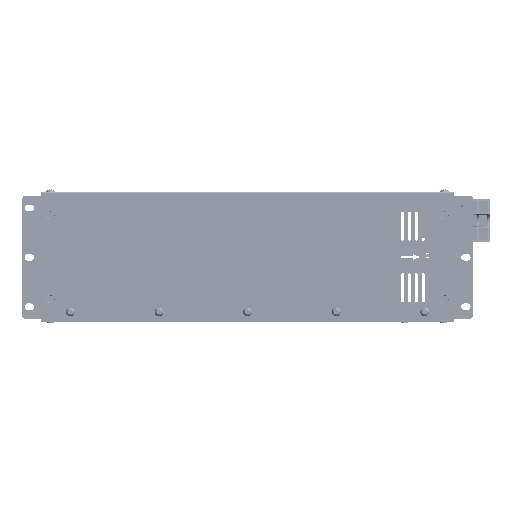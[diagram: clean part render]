
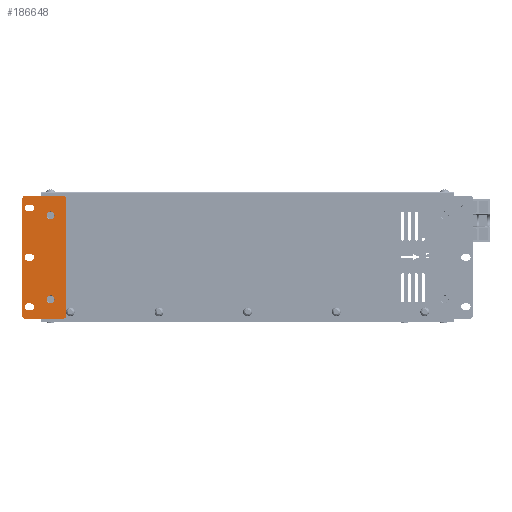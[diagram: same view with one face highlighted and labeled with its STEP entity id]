
A CAD part, top view. The second image highlights one B-rep face of the part: STEP entity #186648.
In plain terms, the highlighted planar face has unit normal (0, 0, 1).
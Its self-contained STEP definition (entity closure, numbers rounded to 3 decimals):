
#6790=FACE_BOUND('',#33034,.T.);
#6791=FACE_BOUND('',#33035,.T.);
#6792=FACE_BOUND('',#33036,.T.);
#6793=FACE_BOUND('',#33037,.T.);
#6794=FACE_BOUND('',#33038,.T.);
#12356=PLANE('',#200391);
#22141=FACE_OUTER_BOUND('',#33033,.T.);
#33033=EDGE_LOOP('',(#163593,#163594,#163595,#163596,#163597,#163598,#163599,
#163600));
#33034=EDGE_LOOP('',(#163601));
#33035=EDGE_LOOP('',(#163602));
#33036=EDGE_LOOP('',(#163603,#163604,#163605,#163606));
#33037=EDGE_LOOP('',(#163607,#163608,#163609,#163610));
#33038=EDGE_LOOP('',(#163611,#163612,#163613,#163614));
#38155=CIRCLE('',#200392,4.);
#38156=CIRCLE('',#200393,4.);
#38157=CIRCLE('',#200394,4.);
#38158=CIRCLE('',#200395,4.);
#38159=CIRCLE('',#200396,4.);
#38160=CIRCLE('',#200397,4.);
#38161=CIRCLE('',#200398,3.3);
#38162=CIRCLE('',#200399,3.3);
#38163=CIRCLE('',#200400,3.3);
#38164=CIRCLE('',#200401,3.3);
#38165=CIRCLE('',#200402,3.3);
#38166=CIRCLE('',#200403,3.3);
#54641=LINE('',#343557,#71312);
#54642=LINE('',#343561,#71313);
#54643=LINE('',#343565,#71314);
#54644=LINE('',#343569,#71315);
#54645=LINE('',#343577,#71316);
#54646=LINE('',#343581,#71317);
#54647=LINE('',#343585,#71318);
#54648=LINE('',#343589,#71319);
#54649=LINE('',#343593,#71320);
#54650=LINE('',#343597,#71321);
#71312=VECTOR('',#243963,10.);
#71313=VECTOR('',#243966,10.);
#71314=VECTOR('',#243969,10.);
#71315=VECTOR('',#243972,10.);
#71316=VECTOR('',#243979,10.);
#71317=VECTOR('',#243982,10.);
#71318=VECTOR('',#243985,10.);
#71319=VECTOR('',#243988,10.);
#71320=VECTOR('',#243991,10.);
#71321=VECTOR('',#243994,10.);
#87900=VERTEX_POINT('',#343555);
#87901=VERTEX_POINT('',#343556);
#87902=VERTEX_POINT('',#343558);
#87903=VERTEX_POINT('',#343560);
#87904=VERTEX_POINT('',#343562);
#87905=VERTEX_POINT('',#343564);
#87906=VERTEX_POINT('',#343566);
#87907=VERTEX_POINT('',#343568);
#87908=VERTEX_POINT('',#343571);
#87909=VERTEX_POINT('',#343573);
#87910=VERTEX_POINT('',#343575);
#87911=VERTEX_POINT('',#343576);
#87912=VERTEX_POINT('',#343578);
#87913=VERTEX_POINT('',#343580);
#87914=VERTEX_POINT('',#343583);
#87915=VERTEX_POINT('',#343584);
#87916=VERTEX_POINT('',#343586);
#87917=VERTEX_POINT('',#343588);
#87918=VERTEX_POINT('',#343591);
#87919=VERTEX_POINT('',#343592);
#87920=VERTEX_POINT('',#343594);
#87921=VERTEX_POINT('',#343596);
#113234=EDGE_CURVE('',#87900,#87901,#54641,.T.);
#113235=EDGE_CURVE('',#87901,#87902,#38155,.T.);
#113236=EDGE_CURVE('',#87902,#87903,#54642,.T.);
#113237=EDGE_CURVE('',#87903,#87904,#38156,.T.);
#113238=EDGE_CURVE('',#87904,#87905,#54643,.T.);
#113239=EDGE_CURVE('',#87905,#87906,#38157,.T.);
#113240=EDGE_CURVE('',#87906,#87907,#54644,.T.);
#113241=EDGE_CURVE('',#87907,#87900,#38158,.T.);
#113242=EDGE_CURVE('',#87908,#87908,#38159,.T.);
#113243=EDGE_CURVE('',#87909,#87909,#38160,.T.);
#113244=EDGE_CURVE('',#87910,#87911,#54645,.T.);
#113245=EDGE_CURVE('',#87911,#87912,#38161,.T.);
#113246=EDGE_CURVE('',#87912,#87913,#54646,.T.);
#113247=EDGE_CURVE('',#87913,#87910,#38162,.T.);
#113248=EDGE_CURVE('',#87914,#87915,#54647,.T.);
#113249=EDGE_CURVE('',#87915,#87916,#38163,.T.);
#113250=EDGE_CURVE('',#87916,#87917,#54648,.T.);
#113251=EDGE_CURVE('',#87917,#87914,#38164,.T.);
#113252=EDGE_CURVE('',#87918,#87919,#54649,.T.);
#113253=EDGE_CURVE('',#87919,#87920,#38165,.T.);
#113254=EDGE_CURVE('',#87920,#87921,#54650,.T.);
#113255=EDGE_CURVE('',#87921,#87918,#38166,.T.);
#163593=ORIENTED_EDGE('',*,*,#113234,.T.);
#163594=ORIENTED_EDGE('',*,*,#113235,.T.);
#163595=ORIENTED_EDGE('',*,*,#113236,.T.);
#163596=ORIENTED_EDGE('',*,*,#113237,.T.);
#163597=ORIENTED_EDGE('',*,*,#113238,.T.);
#163598=ORIENTED_EDGE('',*,*,#113239,.T.);
#163599=ORIENTED_EDGE('',*,*,#113240,.T.);
#163600=ORIENTED_EDGE('',*,*,#113241,.T.);
#163601=ORIENTED_EDGE('',*,*,#113242,.T.);
#163602=ORIENTED_EDGE('',*,*,#113243,.T.);
#163603=ORIENTED_EDGE('',*,*,#113244,.T.);
#163604=ORIENTED_EDGE('',*,*,#113245,.T.);
#163605=ORIENTED_EDGE('',*,*,#113246,.T.);
#163606=ORIENTED_EDGE('',*,*,#113247,.T.);
#163607=ORIENTED_EDGE('',*,*,#113248,.T.);
#163608=ORIENTED_EDGE('',*,*,#113249,.T.);
#163609=ORIENTED_EDGE('',*,*,#113250,.T.);
#163610=ORIENTED_EDGE('',*,*,#113251,.T.);
#163611=ORIENTED_EDGE('',*,*,#113252,.T.);
#163612=ORIENTED_EDGE('',*,*,#113253,.T.);
#163613=ORIENTED_EDGE('',*,*,#113254,.T.);
#163614=ORIENTED_EDGE('',*,*,#113255,.T.);
#186648=ADVANCED_FACE('',(#22141,#6790,#6791,#6792,#6793,#6794),#12356,
 .T.);
#200391=AXIS2_PLACEMENT_3D('',#343554,#243961,#243962);
#200392=AXIS2_PLACEMENT_3D('',#343559,#243964,#243965);
#200393=AXIS2_PLACEMENT_3D('',#343563,#243967,#243968);
#200394=AXIS2_PLACEMENT_3D('',#343567,#243970,#243971);
#200395=AXIS2_PLACEMENT_3D('',#343570,#243973,#243974);
#200396=AXIS2_PLACEMENT_3D('',#343572,#243975,#243976);
#200397=AXIS2_PLACEMENT_3D('',#343574,#243977,#243978);
#200398=AXIS2_PLACEMENT_3D('',#343579,#243980,#243981);
#200399=AXIS2_PLACEMENT_3D('',#343582,#243983,#243984);
#200400=AXIS2_PLACEMENT_3D('',#343587,#243986,#243987);
#200401=AXIS2_PLACEMENT_3D('',#343590,#243989,#243990);
#200402=AXIS2_PLACEMENT_3D('',#343595,#243992,#243993);
#200403=AXIS2_PLACEMENT_3D('',#343598,#243995,#243996);
#243961=DIRECTION('center_axis',(0.,0.,
1.));
#243962=DIRECTION('ref_axis',(0.,1.,0.));
#243963=DIRECTION('',(1.,0.,0.));
#243964=DIRECTION('center_axis',(0.,0.,
1.));
#243965=DIRECTION('ref_axis',(0.,-1.,0.));
#243966=DIRECTION('',(0.,1.,0.));
#243967=DIRECTION('center_axis',(0.,0.,
1.));
#243968=DIRECTION('ref_axis',(1.,0.,0.));
#243969=DIRECTION('',(-1.,0.,0.));
#243970=DIRECTION('center_axis',(0.,0.,
1.));
#243971=DIRECTION('ref_axis',(0.,1.,0.));
#243972=DIRECTION('',(0.,-1.,0.));
#243973=DIRECTION('center_axis',(0.,0.,
1.));
#243974=DIRECTION('ref_axis',(-1.,0.,0.));
#243975=DIRECTION('center_axis',(0.,0.,
-1.));
#243976=DIRECTION('ref_axis',(1.,0.,0.));
#243977=DIRECTION('center_axis',(0.,0.,
-1.));
#243978=DIRECTION('ref_axis',(1.,0.,0.));
#243979=DIRECTION('',(-1.,0.,0.));
#243980=DIRECTION('center_axis',(0.,0.,
-1.));
#243981=DIRECTION('ref_axis',(0.,-1.,0.));
#243982=DIRECTION('',(1.,0.,0.));
#243983=DIRECTION('center_axis',(0.,0.,
-1.));
#243984=DIRECTION('ref_axis',(0.,1.,0.));
#243985=DIRECTION('',(-1.,0.,0.));
#243986=DIRECTION('center_axis',(0.,0.,
-1.));
#243987=DIRECTION('ref_axis',(0.,-1.,0.));
#243988=DIRECTION('',(1.,0.,0.));
#243989=DIRECTION('center_axis',(0.,0.,
-1.));
#243990=DIRECTION('ref_axis',(0.,1.,0.));
#243991=DIRECTION('',(-1.,0.,0.));
#243992=DIRECTION('center_axis',(0.,0.,
-1.));
#243993=DIRECTION('ref_axis',(0.,-1.,0.));
#243994=DIRECTION('',(1.,0.,0.));
#243995=DIRECTION('center_axis',(0.,0.,
-1.));
#243996=DIRECTION('ref_axis',(0.,1.,0.));
#343554=CARTESIAN_POINT('Origin',(-295.526,-2.226,125.5));
#343555=CARTESIAN_POINT('',(-314.026,-64.726,125.5));
#343556=CARTESIAN_POINT('',(-277.026,-64.726,125.5));
#343557=CARTESIAN_POINT('',(-314.026,-64.726,125.5));
#343558=CARTESIAN_POINT('',(-273.026,-60.726,125.5));
#343559=CARTESIAN_POINT('Origin',(-277.026,-60.726,125.5));
#343560=CARTESIAN_POINT('',(-273.026,56.274,125.5));
#343561=CARTESIAN_POINT('',(-273.026,-60.726,125.5));
#343562=CARTESIAN_POINT('',(-277.026,60.274,125.5));
#343563=CARTESIAN_POINT('Origin',(-277.026,56.274,125.5));
#343564=CARTESIAN_POINT('',(-314.026,60.274,125.5));
#343565=CARTESIAN_POINT('',(-277.026,60.274,125.5));
#343566=CARTESIAN_POINT('',(-318.026,56.274,125.5));
#343567=CARTESIAN_POINT('Origin',(-314.026,56.274,125.5));
#343568=CARTESIAN_POINT('',(-318.026,-60.726,125.5));
#343569=CARTESIAN_POINT('',(-318.026,56.274,125.5));
#343570=CARTESIAN_POINT('Origin',(-314.026,-60.726,125.5));
#343571=CARTESIAN_POINT('',(-293.026,-44.726,125.5));
#343572=CARTESIAN_POINT('Origin',(-289.026,-44.726,125.5));
#343573=CARTESIAN_POINT('',(-293.026,40.274,125.5));
#343574=CARTESIAN_POINT('Origin',(-289.026,40.274,125.5));
#343575=CARTESIAN_POINT('',(-309.026,44.474,125.5));
#343576=CARTESIAN_POINT('',(-312.026,44.474,125.5));
#343577=CARTESIAN_POINT('',(-309.026,44.474,125.5));
#343578=CARTESIAN_POINT('',(-312.026,51.074,125.5));
#343579=CARTESIAN_POINT('Origin',(-312.026,47.774,125.5));
#343580=CARTESIAN_POINT('',(-309.026,51.074,125.5));
#343581=CARTESIAN_POINT('',(-312.026,51.074,125.5));
#343582=CARTESIAN_POINT('Origin',(-309.026,47.774,125.5));
#343583=CARTESIAN_POINT('',(-309.026,-5.526,125.5));
#343584=CARTESIAN_POINT('',(-312.026,-5.526,125.5));
#343585=CARTESIAN_POINT('',(-309.026,-5.526,125.5));
#343586=CARTESIAN_POINT('',(-312.026,1.074,125.5));
#343587=CARTESIAN_POINT('Origin',(-312.026,-2.226,125.5));
#343588=CARTESIAN_POINT('',(-309.026,1.074,125.5));
#343589=CARTESIAN_POINT('',(-312.026,1.074,125.5));
#343590=CARTESIAN_POINT('Origin',(-309.026,-2.226,125.5));
#343591=CARTESIAN_POINT('',(-309.026,-55.526,125.5));
#343592=CARTESIAN_POINT('',(-312.026,-55.526,125.5));
#343593=CARTESIAN_POINT('',(-309.026,-55.526,125.5));
#343594=CARTESIAN_POINT('',(-312.026,-48.926,125.5));
#343595=CARTESIAN_POINT('Origin',(-312.026,-52.226,125.5));
#343596=CARTESIAN_POINT('',(-309.026,-48.926,125.5));
#343597=CARTESIAN_POINT('',(-312.026,-48.926,125.5));
#343598=CARTESIAN_POINT('Origin',(-309.026,-52.226,125.5));
